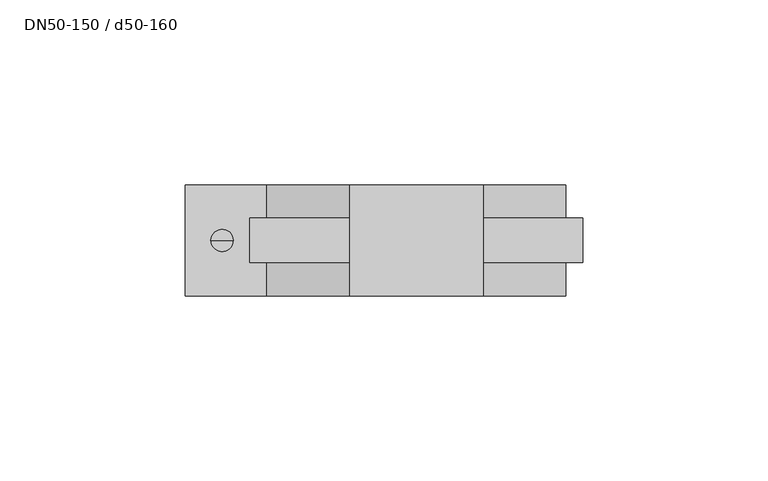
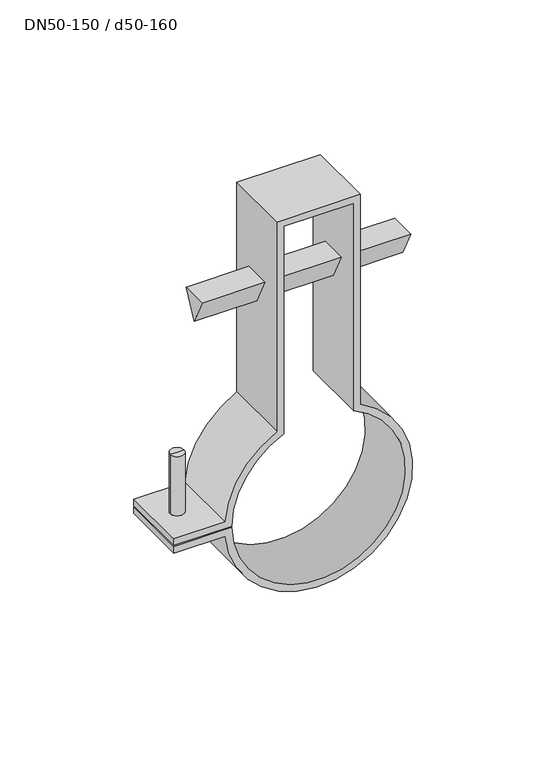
"""IFC4 building model written with IfcOpenShell, lengths in millimetres: unitary equipment geometry, NLRS_52_ME_UN_Geberit Pluvia beugel verstelbaar_PRO_101949 : DN50-150 / d50-160."""

from ifc_helpers import new_model, si_unit, frame, origin, place, context, project, spatial, polyline, circle_curve, source, transform, mapped, element, save
from ifc_brep_helpers import plane_surface, cylinder_surface, revolved_surface, advanced_brep


def dn50_150_d50_160_61d7058e(model_context):
    return source(origin(), model_context, "Body", "AdvancedBrep", [
        advanced_brep(
        [(-37.5, -15.0, 0.0), (-15.0, -15.0, 34.3693177), (-15.0, -15.0, 129.0), (15.0, -15.0, 129.0), (15.0, -15.0, 34.3693177), (-37.4966665, -15.0, -0.5), (-62.5, -15.0, -0.5), (-62.5, -15.0, -3.5), (-40.348482, -15.0, -3.5), (18.0, -15.0, 36.2801599), (18.0, -15.0, 132.0), (-18.0, -15.0, 132.0), (-18.0, -15.0, 36.2801599), (-40.3887361, -15.0, 3.0), (-62.5, -15.0, 3.0), (-62.5, -15.0, 0.0), (-37.5, 15.0, 0.0), (-62.5, 15.0, 0.0), (-62.5, 15.0, 3.0), (-40.3887361, 15.0, 3.0), (-18.0, 15.0, 36.2801599), (-18.0, 15.0, 132.0), (18.0, 15.0, 132.0), (18.0, 15.0, 36.2801599), (-40.348482, 15.0, -3.5), (-62.5, 15.0, -3.5), (-62.5, 15.0, -0.5), (-37.4966665, 15.0, -0.5), (15.0, 15.0, 34.3693177), (15.0, 15.0, 129.0), (-15.0, 15.0, 129.0), (-15.0, 15.0, 34.3693177), (-55.5, 0.0, 3.0), (-49.5, 0.0, 3.0), (-49.5, 0.0, 0.0), (-55.5, 0.0, 0.0), (-55.5, 0.0, -0.5), (-49.5, 0.0, -0.5), (-47.5, 0.0, -3.5), (-57.5, 0.0, -3.5), (-15.0, 0.0, 87.0), (-15.0, -6.0, 99.0), (-15.0, 6.0, 99.0), (15.0, -6.0, 99.0), (15.0, 0.0, 87.0), (15.0, 6.0, 99.0), (18.0, 0.0, 87.0), (18.0, -6.0, 99.0), (18.0, 6.0, 99.0), (-18.0, -6.0, 99.0), (-18.0, 0.0, 87.0), (-18.0, 6.0, 99.0), (-52.5, 0.0, -5.4099578), (-57.5, 0.0, -5.4099578), (-47.5, 0.0, -5.4099578), (-49.5, 0.0, 30.0), (-55.5, 0.0, 30.0), (-52.5, 0.0, 30.0), (-45.0, 0.0, 87.0), (-45.0, -6.0, 99.0), (-45.0, 6.0, 99.0), (45.0, 0.0, 87.0), (45.0, 6.0, 99.0), (45.0, -6.0, 99.0)],
        [
            (0, 1, circle_curve(frame((0.0, -15.0, 0.0), z_axis=(0.0, 1.0, 0.0), x_axis=(1.0, 0.0, 0.0)), 37.5)),
            (1, 2),
            (2, 3),
            (3, 4),
            (4, 5, circle_curve(frame((0.0, -15.0, 0.0), z_axis=(0.0, 1.0, 0.0), x_axis=(1.0, 0.0, 0.0)), 37.5)),
            (5, 6),
            (6, 7),
            (7, 8),
            (8, 9, circle_curve(frame((0.0, -15.0, 0.0), z_axis=(0.0, -1.0, 0.0), x_axis=(1.0, 0.0, 0.0)), 40.5)),
            (9, 10),
            (10, 11),
            (11, 12),
            (12, 13, circle_curve(frame((0.0, -15.0, 0.0), z_axis=(0.0, -1.0, 0.0), x_axis=(1.0, 0.0, 0.0)), 40.5)),
            (13, 14),
            (14, 15),
            (15, 0),
            (16, 17),
            (17, 18),
            (18, 19),
            (19, 20, circle_curve(frame((0.0, 15.0, 0.0), z_axis=(0.0, 1.0, 0.0), x_axis=(1.0, 0.0, 0.0)), 40.5)),
            (20, 21),
            (21, 22),
            (22, 23),
            (23, 24, circle_curve(frame((0.0, 15.0, 0.0), z_axis=(0.0, 1.0, 0.0), x_axis=(1.0, 0.0, 0.0)), 40.5)),
            (24, 25),
            (25, 26),
            (26, 27),
            (27, 28, circle_curve(frame((0.0, 15.0, 0.0), z_axis=(0.0, -1.0, 0.0), x_axis=(1.0, 0.0, 0.0)), 37.5)),
            (28, 29),
            (29, 30),
            (30, 31),
            (31, 16, circle_curve(frame((0.0, 15.0, 0.0), z_axis=(0.0, -1.0, 0.0), x_axis=(1.0, 0.0, 0.0)), 37.5)),
            (0, 16),
            (31, 1),
            (4, 28),
            (27, 5),
            (12, 20),
            (19, 13),
            (8, 24),
            (23, 9),
            (18, 14),
            (32, 33, circle_curve(frame((-52.5, 0.0, 3.0), z_axis=(0.0, 0.0, -1.0), x_axis=(-1.0, 0.0, 0.0)), 3.0)),
            (33, 32, circle_curve(frame((-52.5, 0.0, 3.0), z_axis=(0.0, 0.0, -1.0), x_axis=(-1.0, 0.0, 0.0)), 3.0)),
            (15, 17),
            (34, 35, circle_curve(frame((-52.5, 0.0, 0.0), z_axis=(0.0, 0.0, 1.0), x_axis=(-1.0, 0.0, 0.0)), 3.0)),
            (35, 34, circle_curve(frame((-52.5, 0.0, 0.0), z_axis=(0.0, 0.0, 1.0), x_axis=(-1.0, 0.0, 0.0)), 3.0)),
            (26, 6),
            (36, 37, circle_curve(frame((-52.5, 0.0, -0.5), z_axis=(0.0, 0.0, -1.0), x_axis=(-1.0, 0.0, 0.0)), 3.0)),
            (37, 36, circle_curve(frame((-52.5, 0.0, -0.5), z_axis=(0.0, 0.0, -1.0), x_axis=(-1.0, 0.0, 0.0)), 3.0)),
            (7, 25),
            (38, 39, circle_curve(frame((-52.5, 0.0, -3.5), z_axis=(0.0, 0.0, 1.0), x_axis=(-1.0, 0.0, 0.0)), 5.0)),
            (39, 38, circle_curve(frame((-52.5, 0.0, -3.5), z_axis=(0.0, 0.0, 1.0), x_axis=(-1.0, 0.0, 0.0)), 5.0)),
            (30, 2),
            (40, 41),
            (41, 42),
            (42, 40),
            (29, 3),
            (43, 44),
            (44, 45),
            (45, 43),
            (22, 10),
            (46, 47),
            (47, 48),
            (48, 46),
            (21, 11),
            (49, 50),
            (50, 51),
            (51, 49),
            (52, 53),
            (53, 54, circle_curve(frame((-52.5, 0.0, -5.4099578), z_axis=(0.0, 0.0, -1.0), x_axis=(-1.0, 0.0, 0.0)), 5.0)),
            (54, 52),
            (54, 53, circle_curve(frame((-52.5, 0.0, -5.4099578), z_axis=(0.0, 0.0, -1.0), x_axis=(-1.0, 0.0, 0.0)), 5.0)),
            (55, 56, circle_curve(frame((-52.5, 0.0, 30.0), z_axis=(0.0, 0.0, 1.0), x_axis=(-1.0, 0.0, 0.0)), 3.0)),
            (56, 57),
            (57, 55),
            (56, 55, circle_curve(frame((-52.5, 0.0, 30.0), z_axis=(0.0, 0.0, 1.0), x_axis=(-1.0, 0.0, 0.0)), 3.0)),
            (55, 33),
            (32, 56),
            (36, 35),
            (34, 37),
            (53, 39),
            (38, 54),
            (58, 59),
            (59, 60),
            (60, 58),
            (61, 62),
            (62, 63),
            (63, 61),
            (58, 50),
            (49, 59),
            (63, 47),
            (46, 61),
            (40, 44),
            (43, 41),
            (51, 60),
            (62, 48),
            (45, 42),
        ],
        [
            plane_surface(frame((37.5, -15.0, 0.0), z_axis=(0.0, -1.0, 0.0), x_axis=(0.0, 0.0, -1.0))),
            plane_surface(frame((37.5, 15.0, 0.0), z_axis=(0.0, 1.0, 0.0), x_axis=(0.0, 0.0, 1.0))),
            revolved_surface(polyline([(37.5, 15.0, 0.0), (37.5, -15.0, 0.0)]), (0.0, 15.0, 0.0), (0.0, 1.0, 0.0)),
            cylinder_surface(frame((0.0, 15.0, 0.0), z_axis=(0.0, -1.0, 0.0), x_axis=(1.0, 0.0, 0.0)), 40.5),
            plane_surface(frame((-40.3887361, -15.0, 3.0), z_axis=(0.0, 0.0, 1.0), x_axis=(0.0, 1.0, 0.0))),
            plane_surface(frame((-62.5, -15.0, 0.0), z_axis=(0.0, 0.0, -1.0), x_axis=(0.0, 1.0, 0.0))),
            plane_surface(frame((-37.4966665, -15.0, -0.5), z_axis=(0.0, 0.0, 1.0), x_axis=(0.0, 1.0, 0.0))),
            plane_surface(frame((-62.5, -15.0, -3.5), z_axis=(0.0, 0.0, -1.0), x_axis=(0.0, 1.0, 0.0))),
            plane_surface(frame((-62.5, -15.0, 3.0), z_axis=(-1.0, 0.0, 0.0), x_axis=(0.0, 1.0, 0.0))),
            plane_surface(frame((-62.5, -15.0, -0.5), z_axis=(-1.0, 0.0, 0.0), x_axis=(0.0, 1.0, 0.0))),
            plane_surface(frame((-15.0, -15.0, 34.3693177), z_axis=(1.0, 0.0, 0.0), x_axis=(0.0, 1.0, 0.0))),
            plane_surface(frame((-15.0, -15.0, 129.0), z_axis=(0.0, 0.0, -1.0), x_axis=(0.0, 1.0, 0.0))),
            plane_surface(frame((15.0, -15.0, 129.0), z_axis=(-1.0, 0.0, 0.0), x_axis=(0.0, 1.0, 0.0))),
            plane_surface(frame((18.0, -15.0, 36.2801599), z_axis=(1.0, 0.0, 0.0), x_axis=(0.0, 1.0, 0.0))),
            plane_surface(frame((18.0, -15.0, 132.0), z_axis=(0.0, 0.0, 1.0), x_axis=(0.0, 1.0, 0.0))),
            plane_surface(frame((-18.0, -15.0, 132.0), z_axis=(-1.0, 0.0, 0.0), x_axis=(0.0, 1.0, 0.0))),
            plane_surface(frame((-52.5, 0.0, -5.4099578), z_axis=(0.0, 0.0, -1.0), x_axis=(-1.0, 0.0, 0.0))),
            plane_surface(frame((-52.5, 0.0, 30.0), z_axis=(0.0, 0.0, 1.0), x_axis=(-1.0, 0.0, 0.0))),
            cylinder_surface(frame((-52.5, 0.0, 30.0), z_axis=(0.0, 0.0, -1.0), x_axis=(-1.0, 0.0, 0.0)), 3.0),
            cylinder_surface(frame((-52.5, 0.0, 30.0), z_axis=(0.0, 0.0, -1.0), x_axis=(-1.0, 0.0, 0.0)), 5.0),
            plane_surface(frame((-45.0, 0.0, 0.0), z_axis=(-1.0, 0.0, 0.0), x_axis=(0.0, 0.0, 1.0))),
            plane_surface(frame((45.0, 0.0, 0.0), z_axis=(1.0, 0.0, 0.0), x_axis=(0.0, 0.0, 1.0))),
            plane_surface(frame((-45.0, 0.0, 87.0), z_axis=(0.0, -0.8944271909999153, -0.4472135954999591), x_axis=(1.0, 0.0, 0.0))),
            plane_surface(frame((-45.0, -6.0, 99.0), z_axis=(0.0, 0.0, 1.0), x_axis=(1.0, 0.0, 0.0))),
            plane_surface(frame((-45.0, 6.0, 99.0), z_axis=(0.0, 0.8944271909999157, -0.4472135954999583), x_axis=(1.0, 0.0, 0.0))),
        ],
        [
            (0, [[1, 2, 3, 4, 5, 6, 7, 8, 9, 10, 11, 12, 13, 14, 15, 16]]),
            (1, [[17, 18, 19, 20, 21, 22, 23, 24, 25, 26, 27, 28, 29, 30, 31, 32]]),
            (2, [[-1, 33, -32, 34]]),
            (2, [[-5, 35, -28, 36]]),
            (3, [[-13, 37, -20, 38]]),
            (3, [[-9, 39, -24, 40]]),
            (4, [[-14, -38, -19, 41], [42, 43]]),
            (5, [[-16, 44, -17, -33], [45, 46]]),
            (6, [[-6, -36, -27, 47], [48, 49]]),
            (7, [[-8, 50, -25, -39], [51, 52]]),
            (8, [[-15, -41, -18, -44]]),
            (9, [[-7, -47, -26, -50]]),
            (10, [[-2, -34, -31, 53], [54, 55, 56]]),
            (11, [[-3, -53, -30, 57]]),
            (12, [[-4, -57, -29, -35], [58, 59, 60]]),
            (13, [[-10, -40, -23, 61], [62, 63, 64]]),
            (14, [[-11, -61, -22, 65]]),
            (15, [[-12, -65, -21, -37], [66, 67, 68]]),
            (16, [[69, 70, 71]]),
            (16, [[-69, -71, 72]]),
            (17, [[73, 74, 75]]),
            (17, [[-74, 76, -75]]),
            (18, [[-73, 77, -42, 78]]),
            (18, [[79, -45, 80, -48]]),
            (18, [[-76, -78, -43, -77]]),
            (18, [[-79, -49, -80, -46]]),
            (19, [[-70, 81, -51, 82]]),
            (19, [[-72, -82, -52, -81]]),
            (20, [[83, 84, 85]]),
            (21, [[86, 87, 88]]),
            (22, [[-83, 89, -66, 90]]),
            (22, [[-88, 91, -62, 92]]),
            (22, [[93, -58, 94, -54]]),
            (23, [[-84, -90, -68, 95]]),
            (23, [[-87, 96, -63, -91]]),
            (23, [[-94, -60, 97, -55]]),
            (24, [[-85, -95, -67, -89]]),
            (24, [[-86, -92, -64, -96]]),
            (24, [[-93, -56, -97, -59]]),
        ],
    ),
    ])


if __name__ == "__main__":
    model = new_model("IFC4")
    model_context = context("Model", 3, world=origin())
    ifc_project = project(units=[si_unit("LENGTHUNIT", "METRE", prefix="MILLI")], contexts=[model_context])
    site = spatial("IfcSite", under=ifc_project)
    building = spatial("IfcBuilding", under=site)
    placement = place(None, origin())
    dn50_150_d50_160_shape = dn50_150_d50_160_61d7058e(model_context)
    element("IfcUnitaryEquipment", 1, ObjectType="NLRS_52_ME_UN_Geberit Pluvia beugel verstelbaar_PRO_101949 : DN50-150 / d50-160", at=placement, inside=building, context=model_context, shape_type="MappedRepresentation", body=[
        mapped(dn50_150_d50_160_shape, transform((0.0, 0.0, 0.0), x_axis=(1.0, 0.0, 0.0), y_axis=(0.0, 1.0, 0.0), z_axis=(0.0, 0.0, 1.0))),
    ])
    save(model, "model.ifc")
